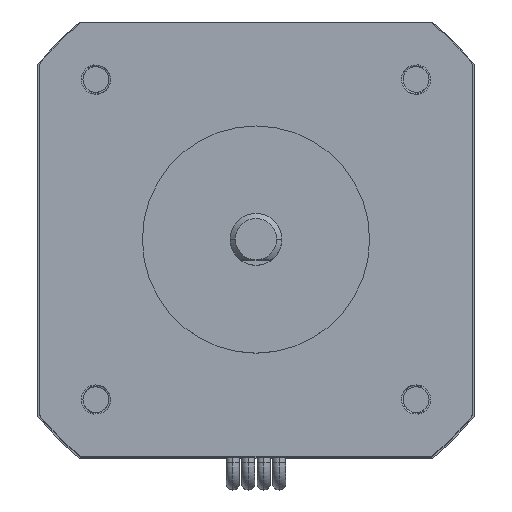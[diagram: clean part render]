
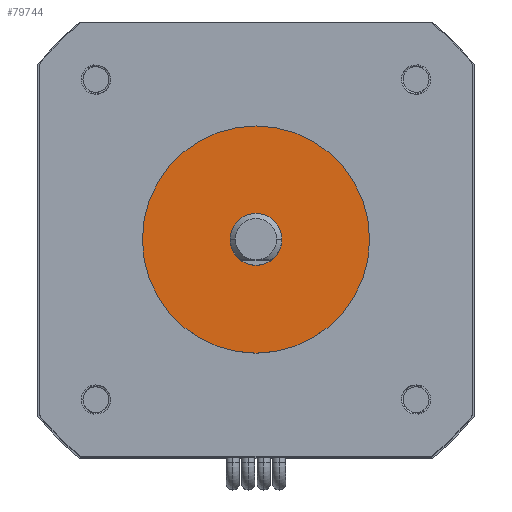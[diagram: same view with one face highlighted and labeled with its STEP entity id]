
A CAD part, top view. The second image highlights one B-rep face of the part: STEP entity #79744.
In plain terms, the highlighted planar face has unit normal (0, 0, 1).
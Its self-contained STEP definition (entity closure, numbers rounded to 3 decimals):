
#1188 = CIRCLE ( 'NONE', #34794, 11. ) ;
#2974 = VERTEX_POINT ( 'NONE', #53310 ) ;
#12233 = ORIENTED_EDGE ( 'NONE', *, *, #47920, .T. ) ;
#20886 = DIRECTION ( 'NONE',  ( 0., 0., 1. ) ) ;
#27681 = EDGE_CURVE ( 'NONE', #49022, #2974, #49115, .T. ) ;
#28185 = DIRECTION ( 'NONE',  ( 0., 0., 1. ) ) ;
#29168 = ORIENTED_EDGE ( 'NONE', *, *, #27681, .T. ) ;
#34794 = AXIS2_PLACEMENT_3D ( 'NONE', #67507, #59499, #66251 ) ;
#36211 = PLANE ( 'NONE',  #84891 ) ;
#42485 = EDGE_LOOP ( 'NONE', ( #29168, #12233 ) ) ;
#47920 = EDGE_CURVE ( 'NONE', #2974, #49022, #1188, .T. ) ;
#48876 = FACE_OUTER_BOUND ( 'NONE', #42485, .T. ) ;
#49022 = VERTEX_POINT ( 'NONE', #55816 ) ;
#49115 = CIRCLE ( 'NONE', #86735, 11. ) ;
#49659 = CARTESIAN_POINT ( 'NONE',  ( 0., 0., 60.2 ) ) ;
#49743 = CARTESIAN_POINT ( 'NONE',  ( 0., 0., 60.2 ) ) ;
#50062 = DIRECTION ( 'NONE',  ( 1., 0., 0. ) ) ;
#53310 = CARTESIAN_POINT ( 'NONE',  ( 11., 0., 60.2 ) ) ;
#55816 = CARTESIAN_POINT ( 'NONE',  ( -11., 0., 60.2 ) ) ;
#59499 = DIRECTION ( 'NONE',  ( 0., 0., 1. ) ) ;
#65059 = DIRECTION ( 'NONE',  ( 1., 0., 0. ) ) ;
#66251 = DIRECTION ( 'NONE',  ( 1., 0., 0. ) ) ;
#67507 = CARTESIAN_POINT ( 'NONE',  ( 0., 0., 60.2 ) ) ;
#79744 = ADVANCED_FACE ( 'NONE', ( #48876 ), #36211, .T. ) ;
#84891 = AXIS2_PLACEMENT_3D ( 'NONE', #49659, #28185, #65059 ) ;
#86735 = AXIS2_PLACEMENT_3D ( 'NONE', #49743, #20886, #50062 ) ;
